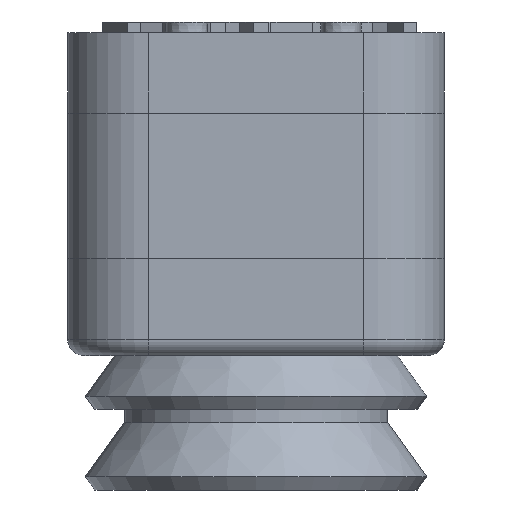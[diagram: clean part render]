
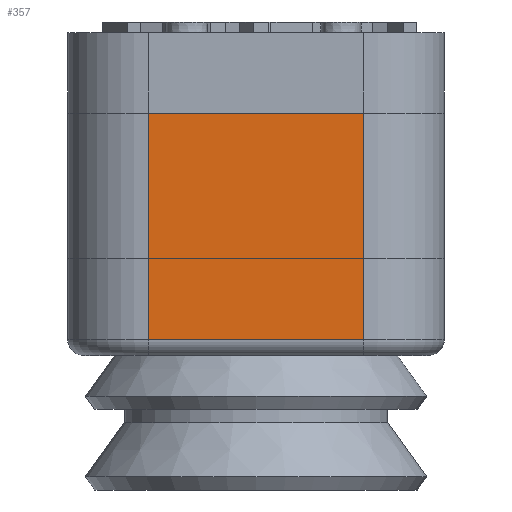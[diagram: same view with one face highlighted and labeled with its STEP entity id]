
A CAD part, left-side view. The second image highlights one B-rep face of the part: STEP entity #357.
In plain terms, the highlighted planar face has unit normal (-1, 0, 0).
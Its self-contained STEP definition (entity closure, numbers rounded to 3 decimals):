
#357 = ADVANCED_FACE( '', ( #760 ), #761, .T. );
#760 = FACE_OUTER_BOUND( '', #1198, .T. );
#761 = PLANE( '', #1199 );
#1198 = EDGE_LOOP( '', ( #2340, #2341, #2342, #2343 ) );
#1199 = AXIS2_PLACEMENT_3D( '', #2344, #2345, #2346 );
#2340 = ORIENTED_EDGE( '', *, *, #3008, .F. );
#2341 = ORIENTED_EDGE( '', *, *, #3130, .T. );
#2342 = ORIENTED_EDGE( '', *, *, #3154, .T. );
#2343 = ORIENTED_EDGE( '', *, *, #2945, .F. );
#2344 = CARTESIAN_POINT( '', ( -10., 2., -4.5 ) );
#2345 = DIRECTION( '', ( -1., 0., 0. ) );
#2346 = DIRECTION( '', ( 0., 0., 1. ) );
#2945 = EDGE_CURVE( '', #3518, #3510, #3520, .T. );
#3008 = EDGE_CURVE( '', #3624, #3518, #3626, .T. );
#3130 = EDGE_CURVE( '', #3624, #3782, #3784, .T. );
#3154 = EDGE_CURVE( '', #3782, #3510, #3809, .T. );
#3510 = VERTEX_POINT( '', #4410 );
#3518 = VERTEX_POINT( '', #4420 );
#3520 = LINE( '', #4422, #4423 );
#3624 = VERTEX_POINT( '', #4814 );
#3626 = LINE( '', #4816, #4817 );
#3782 = VERTEX_POINT( '', #5192 );
#3784 = LINE( '', #5194, #5195 );
#3809 = LINE( '', #5227, #5228 );
#4410 = CARTESIAN_POINT( '', ( -10., -2., 0. ) );
#4420 = CARTESIAN_POINT( '', ( -10., 2., 0. ) );
#4422 = CARTESIAN_POINT( '', ( -10., 2., 0. ) );
#4423 = VECTOR( '', #5539, 1000. );
#4814 = CARTESIAN_POINT( '', ( -10., 2., -4.2 ) );
#4816 = CARTESIAN_POINT( '', ( -10., 2., -4.5 ) );
#4817 = VECTOR( '', #5591, 1000. );
#5192 = CARTESIAN_POINT( '', ( -10., -2., -4.2 ) );
#5194 = CARTESIAN_POINT( '', ( -10., -2., -4.2 ) );
#5195 = VECTOR( '', #5681, 1000. );
#5227 = CARTESIAN_POINT( '', ( -10., -2., -4.5 ) );
#5228 = VECTOR( '', #5698, 1000. );
#5539 = DIRECTION( '', ( 0., -1., 0. ) );
#5591 = DIRECTION( '', ( 0., 0., 1. ) );
#5681 = DIRECTION( '', ( 0., -1., 0. ) );
#5698 = DIRECTION( '', ( 0., 0., 1. ) );
